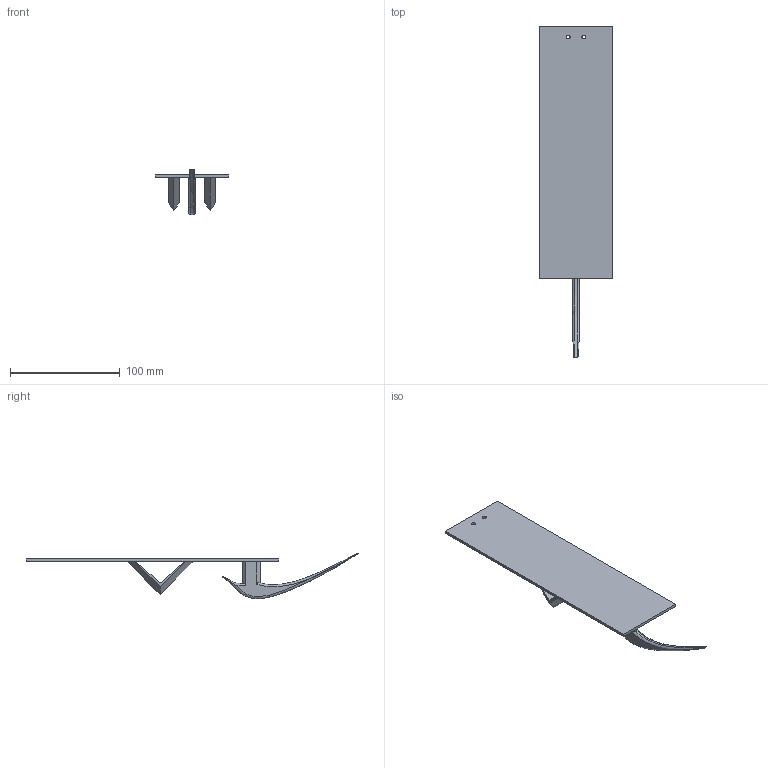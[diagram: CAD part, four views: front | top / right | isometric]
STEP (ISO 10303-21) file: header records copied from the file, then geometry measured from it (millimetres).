
FILE_DESCRIPTION(/* description */ ('STEP AP242 Edition 2','CAx-IF Rec.Pracs.---Representation and Presentation of Product Manufacturing Information (PMI)---4.0---2014-10-13','CAx-IF Rec.Pracs.---3D Tessellated Geometry---0.4---2014-09-14','2;1','CAx-IF Rec.Pracs.---User Defined Attributes---1.5---2016-08-15'),/* implementation_level */ '2;1');
FILE_NAME(/* name */ 'Arm Parts - XRoof',/* time_stamp */ '2026-04-22T00:04:14Z',/* author */ (''),/* organization */ (''),/* preprocessor_version */ 'ST-DEVELOPER v20',/* originating_system */ 'ONSHAPE BY PTC INC, 1.213',/* authorisation */ ' ');
FILE_SCHEMA (('AP242_MANAGED_MODEL_BASED_3D_ENGINEERING_MIM_LF { 1 0 10303 442 3 1 4 }'));
Length unit declared in the file: metre
Products named in the file (1): XRoof
Bounding box: 67 x 302.1 x 41.34 mm (x, y, z)
Volume: 50173.3 mm3; surface area: 39113 mm2
Topology: 1 solids, 1 shells, 41 faces, 116 edges, 74 vertices
Faces by surface type: plane 28, bspline 11, cylinder 2
Full cylindrical faces by diameter (mm): 3.4 x2
Entity records: 4399 total; most frequent: CARTESIAN_POINT 3434, ORIENTED_EDGE 220, DIRECTION 140, EDGE_CURVE 110, VERTEX_POINT 74, LINE 70, VECTOR 70, EDGE_LOOP 52
